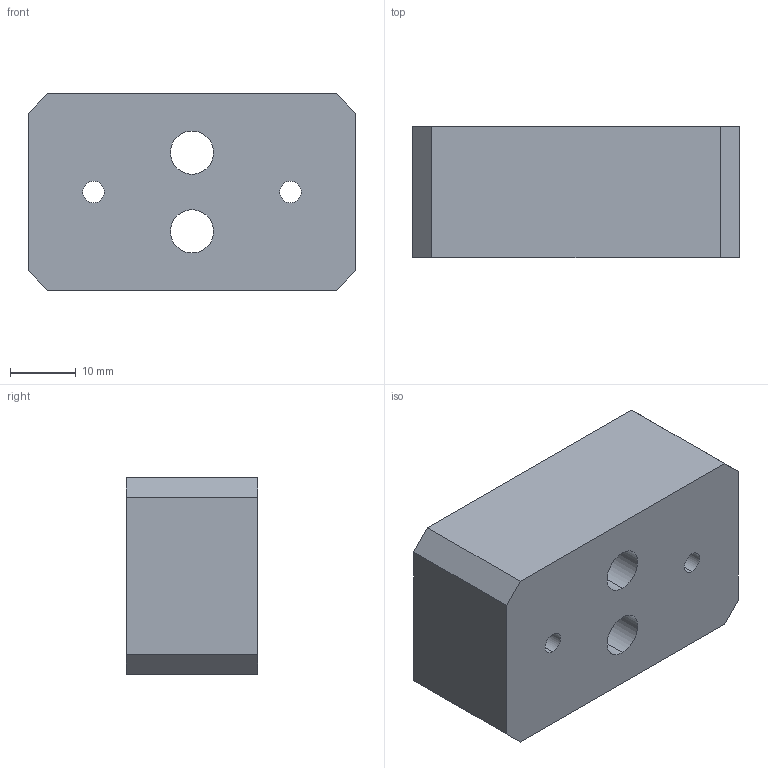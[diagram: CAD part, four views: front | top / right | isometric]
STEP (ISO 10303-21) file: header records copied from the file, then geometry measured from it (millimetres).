
FILE_DESCRIPTION (( 'STEP AP203' ), '1' );
FILE_NAME ('020100000004749.step', '2024-07-03T11:18:21', ( '' ), ( '' ), 'SwSTEP 2.0', 'SolidWorks 2023', '' );
FILE_SCHEMA (( 'CONFIG_CONTROL_DESIGN' ));
Length unit declared in the file: millimetre
Products named in the file (1): 020100000004749
Bounding box: 50 x 20 x 30 mm (x, y, z)
Volume: 24796.6 mm3; surface area: 7787.9 mm2
Topology: 1 solids, 1 shells, 30 faces, 72 edges, 48 vertices
Faces by surface type: cylinder 16, plane 14
Entity records: 981 total; most frequent: DIRECTION 166, CARTESIAN_POINT 151, ORIENTED_EDGE 144, EDGE_CURVE 72, AXIS2_PLACEMENT_3D 63, VERTEX_POINT 48, EDGE_LOOP 42, LINE 40
